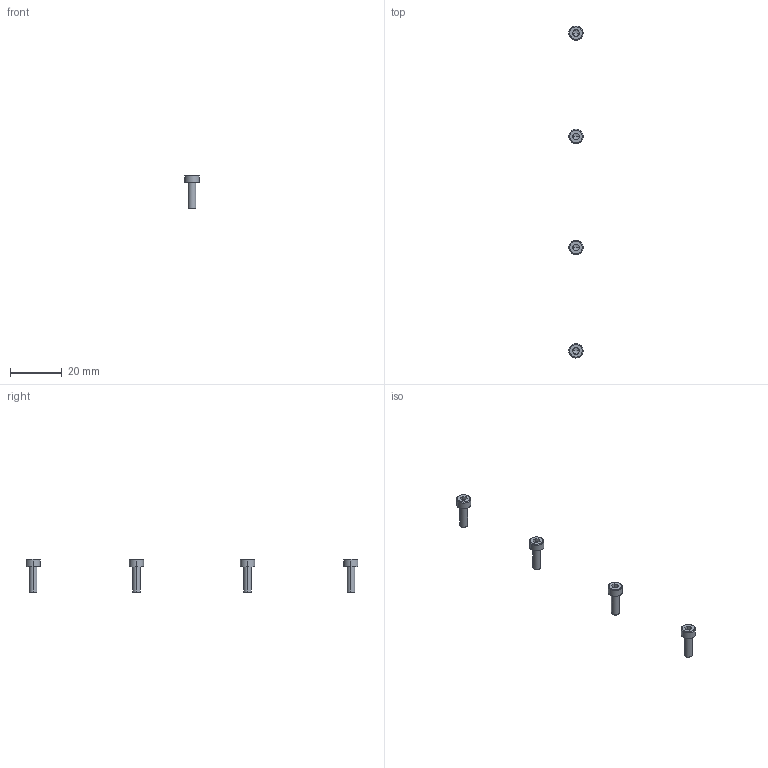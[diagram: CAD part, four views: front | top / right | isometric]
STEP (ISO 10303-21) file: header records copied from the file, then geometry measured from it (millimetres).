
FILE_DESCRIPTION(/* description */ (''),/* implementation_level */ '2;1');
FILE_NAME(/* name */ '9.electronics#9.3#CB3-10',/* time_stamp */ '2014-12-01T20:18:47+01:00',/* author */ (''),/* organization */ (''),/* preprocessor_version */ 'ST-DEVELOPER v14',/* originating_system */ '',/* authorisation */ '');
FILE_SCHEMA (('AUTOMOTIVE_DESIGN'));
Length unit declared in the file: millimetre
Products named in the file (2): Document; screw DIN912-like, M3x10
Assembly tree (4 placements, depth 2):
  Document
    screw DIN912-like, M3x10  x4
Bounding box: 5.5 x 128.49 x 13 mm (x, y, z)
Volume: 529.8 mm3; surface area: 807.4 mm2
Topology: 4 solids, 4 shells, 100 faces, 224 edges, 132 vertices
Faces by surface type: plane 60, bspline 40
Entity records: 1429 total; most frequent: CARTESIAN_POINT 635, B_SPLINE_CURVE_WITH_KNOTS 126, ORIENTED_EDGE 108, PCURVE 108, DEFINITIONAL_REPRESENTATION 108, SURFACE_CURVE 54, EDGE_CURVE 54, VERTEX_POINT 33
